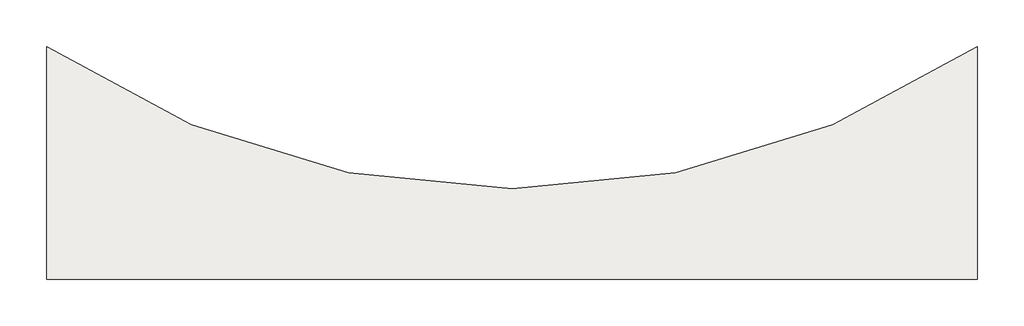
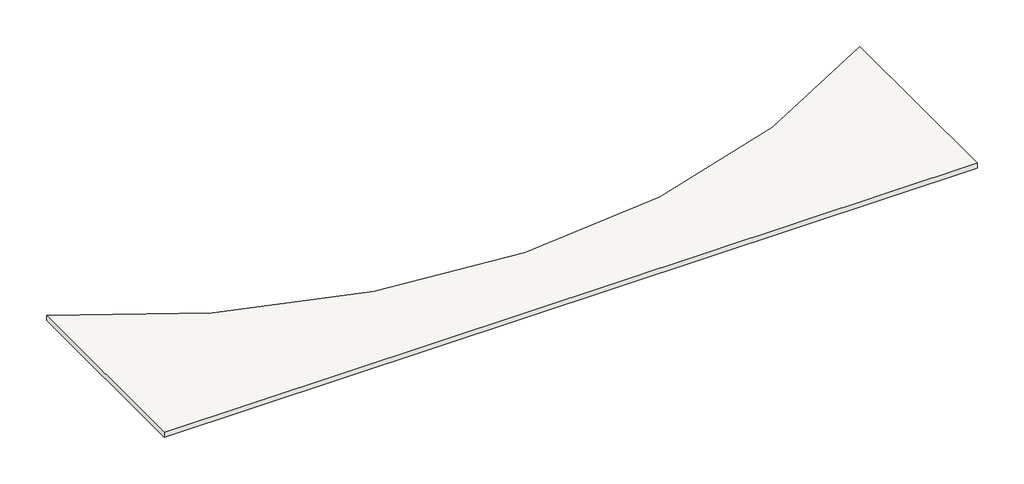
# One storey: 1 roof.
"""IFC4 building model written with IfcOpenShell, lengths in millimetres."""

from ifc_helpers import new_model, si_unit, point, frame, frame_2d, origin, place, context, project, spatial, polyline, circle_curve, trimmed, segment, composite_curve, outline, extrude, element, save

model = new_model("IFC4")

# Units and contexts
model_context = context("Model", 3, world=origin())
ifc_project = project(units=[si_unit("LENGTHUNIT", "METRE", prefix="MILLI")], contexts=[model_context])

# Site, building, storey
site = spatial("IfcSite", under=ifc_project)
building = spatial("IfcBuilding", under=site)
storey = spatial("IfcBuildingStorey", under=building, Name="Portico Roof - Flat", Elevation=32918.4)

# Roof
placement = place(None, origin())
element("IfcRoof", 1, ObjectType="Portico Roof- Flat", at=placement, inside=storey, context=model_context, shape_type="SweptSolid", body=[
    extrude(outline(composite_curve([segment(trimmed(circle_curve(frame_2d((2485.2482268, 2019.2411242)), 29311.6), [point((-13897.7517732, -22286.4620247))], [point((18868.2482268, -22286.4620247))], True, "CARTESIAN"), True, "CONTINUOUS"), segment(polyline([(18868.2482268, -22286.4620247), (18868.2482268, -30482.280615), (-13897.7517732, -30482.280615), (-13897.7517732, -22286.4620247)]), True, "CONTINUOUS")], self_intersect=False)), frame((0.0, 0.0, 32308.8), z_axis=(0.0, 0.0, 1.0), x_axis=(1.0, 0.0, 0.0)), (0.0, 0.0, 1.0), 212.725),
])

save(model, "model.ifc")
